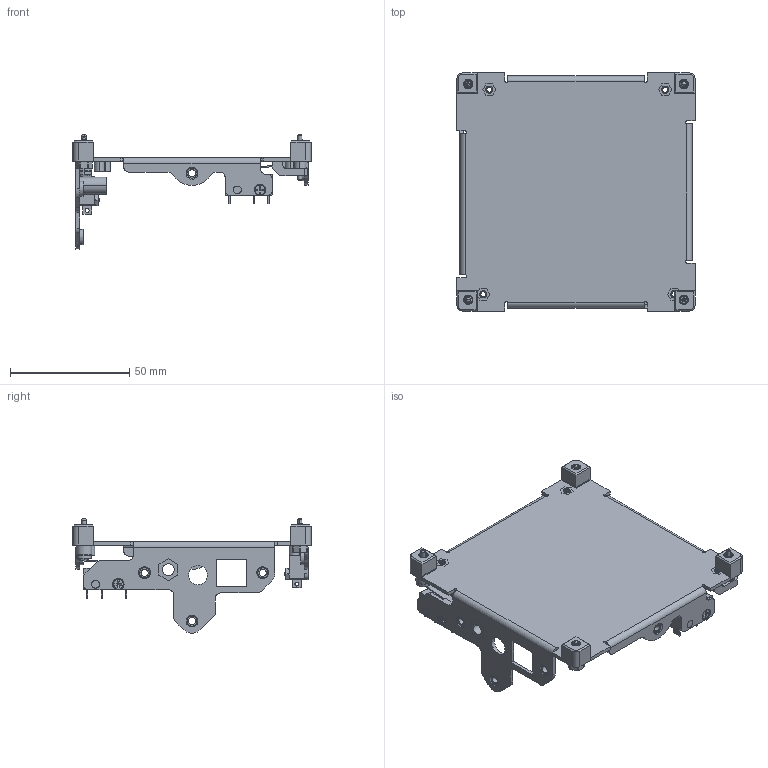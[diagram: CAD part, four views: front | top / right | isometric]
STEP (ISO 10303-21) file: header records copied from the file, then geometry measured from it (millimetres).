
FILE_DESCRIPTION (( 'STEP AP214' ), '1' );
FILE_NAME ('710-00793-E0 Base Plate, Solid, Dual Switch.STEP', '2017-11-13T20:48:54', ( '' ), ( '' ), 'SwSTEP 2.0', 'SolidWorks 2014', '' );
FILE_SCHEMA (( 'AUTOMOTIVE_DESIGN' ));
Length unit declared in the file: inch
Products named in the file (2): 710-00793-E0 Base Plate, Solid, Dual Switch
Bounding box: 100 x 100 x 47.84 mm (x, y, z)
Volume: 23882.2 mm3; surface area: 31141.3 mm2
Topology: 1 solids, 41 shells, 1559 faces, 3783 edges, 2274 vertices
Faces by surface type: cone 666, plane 481, cylinder 390, torus 16, sphere 6
Entity records: 54126 total; most frequent: DIRECTION 8433, CARTESIAN_POINT 8038, ORIENTED_EDGE 7558, EDGE_CURVE 3779, AXIS2_PLACEMENT_3D 3183, VERTEX_POINT 2274, VECTOR 2067, LINE 2067
